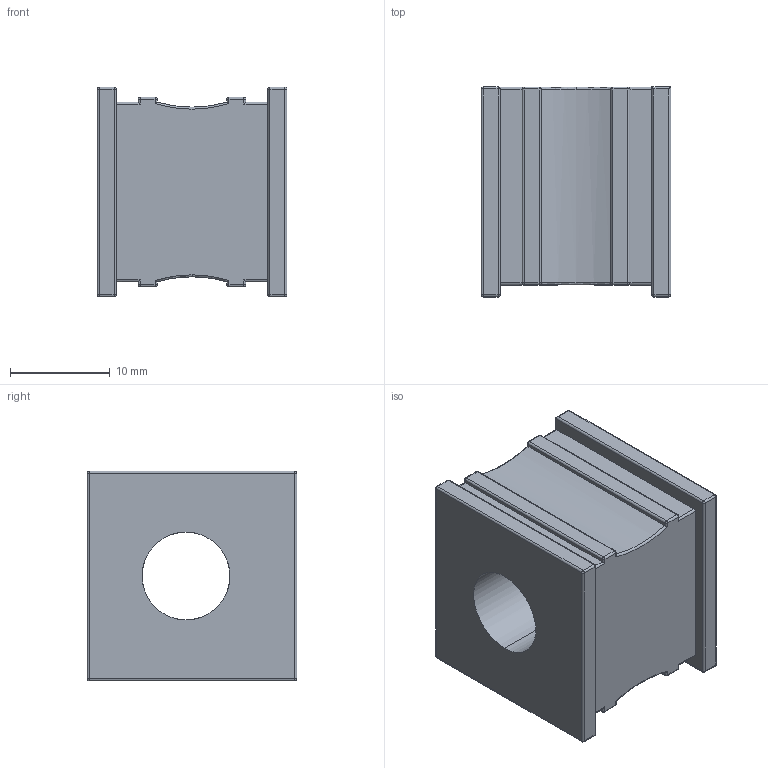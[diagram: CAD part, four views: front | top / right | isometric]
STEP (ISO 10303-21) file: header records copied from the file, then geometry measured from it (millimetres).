
FILE_DESCRIPTION (( 'STEP AP203' ), '1' );
FILE_NAME ('041209 KT9.STEP', '2023-03-07T03:14:07', ( '' ), ( '' ), 'SwSTEP 2.0', 'SolidWorks 2016', '' );
FILE_SCHEMA (( 'CONFIG_CONTROL_DESIGN' ));
Length unit declared in the file: millimetre
Products named in the file (1): 041209 KT9
Bounding box: 19 x 21 x 21 mm (x, y, z)
Volume: 5905.7 mm3; surface area: 2969.4 mm2
Topology: 1 solids, 1 shells, 157 faces, 376 edges, 193 vertices
Faces by surface type: cylinder 71, plane 33, bspline 28, sphere 17, torus 8
Entity records: 5294 total; most frequent: CARTESIAN_POINT 1983, ORIENTED_EDGE 690, DIRECTION 634, EDGE_CURVE 345, AXIS2_PLACEMENT_3D 235, VERTEX_POINT 193, VECTOR 164, LINE 164
